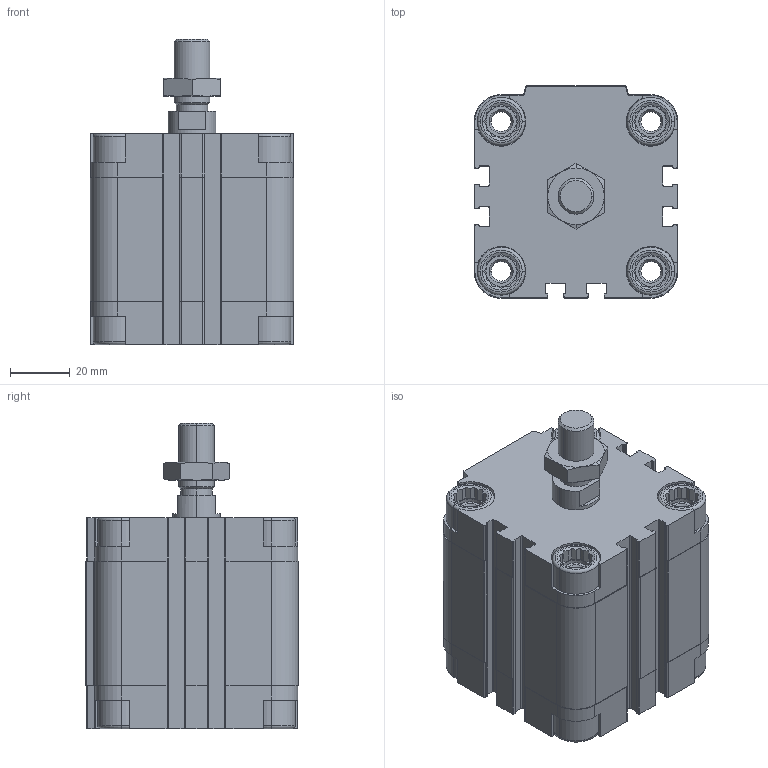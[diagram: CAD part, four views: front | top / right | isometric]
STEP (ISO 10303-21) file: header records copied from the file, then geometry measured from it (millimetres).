
FILE_DESCRIPTION (( 'STEP AP203' ), '1' );
FILE_NAME ('CDVU50-25.STEP', '2020-03-19T11:36:38', ( '' ), ( '' ), 'SwSTEP 2.0', 'SolidWorks 2019', '' );
FILE_SCHEMA (( 'CONFIG_CONTROL_DESIGN' ));
Length unit declared in the file: millimetre
Products named in the file (1): CDVU50-25
Bounding box: 68 x 71 x 102 mm (x, y, z)
Volume: 252857.2 mm3; surface area: 64470.7 mm2
Topology: 3 solids, 3 shells, 727 faces, 1932 edges, 1246 vertices
Faces by surface type: plane 425, cylinder 232, cone 54, torus 16
Entity records: 23055 total; most frequent: CARTESIAN_POINT 4826, ORIENTED_EDGE 3856, DIRECTION 3728, EDGE_CURVE 1928, AXIS2_PLACEMENT_3D 1276, VERTEX_POINT 1246, LINE 1176, VECTOR 1176
